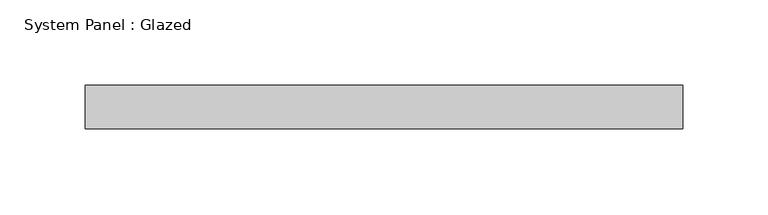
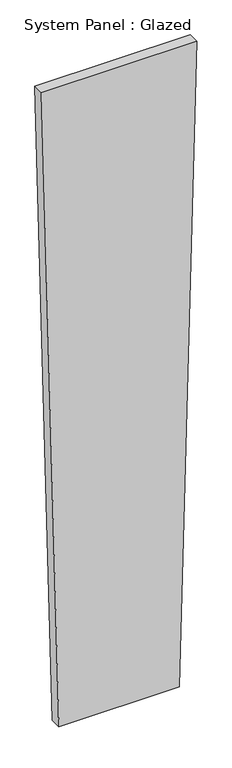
"""IFC4 building model written with IfcOpenShell, lengths in millimetres: plate geometry, System Panel : Glazed."""

from ifc_helpers import new_model, si_unit, frame, origin, place, context, project, spatial, polyline, outline, extrude, source, transform, mapped, element, save


def system_panel_glazed_c6f68c0f(model_context):
    return source(origin(), model_context, "Body", "SweptSolid", [
        extrude(outline(polyline([(0.0, -135.6438304), (0.0, 135.6438304), (1523.4947338, 174.8840644), (1523.4947338, -174.8840644), (0.0, -135.6438304)])), frame((0.0, -44.45, 0.0), z_axis=(0.0, 1.0, 0.0), x_axis=(0.0, 0.0, 1.0)), (0.0, 0.0, 1.0), 25.4),
    ])


if __name__ == "__main__":
    model = new_model("IFC4")
    model_context = context("Model", 3, world=origin())
    ifc_project = project(units=[si_unit("LENGTHUNIT", "METRE", prefix="MILLI")], contexts=[model_context])
    site = spatial("IfcSite", under=ifc_project)
    building = spatial("IfcBuilding", under=site)
    placement = place(None, origin())
    system_panel_glazed_shape = system_panel_glazed_c6f68c0f(model_context)
    element("IfcPlate", 1, ObjectType="System Panel : Glazed", at=placement, inside=building, context=model_context, shape_type="MappedRepresentation", body=[
        mapped(system_panel_glazed_shape, transform((0.0, 0.0, 0.0), x_axis=(1.0, 0.0, 0.0), y_axis=(0.0, 1.0, 0.0), z_axis=(0.0, 0.0, 1.0))),
    ])
    save(model, "model.ifc")
